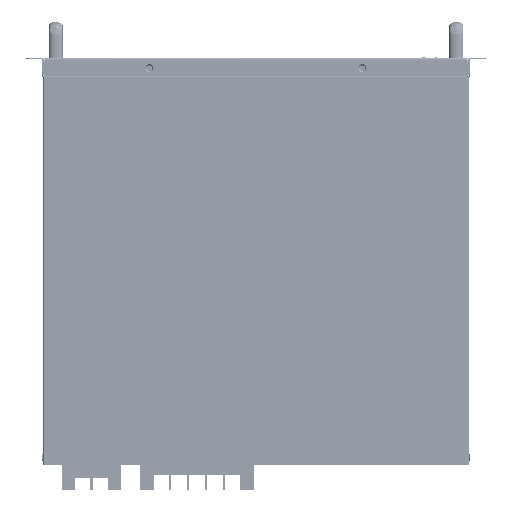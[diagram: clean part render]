
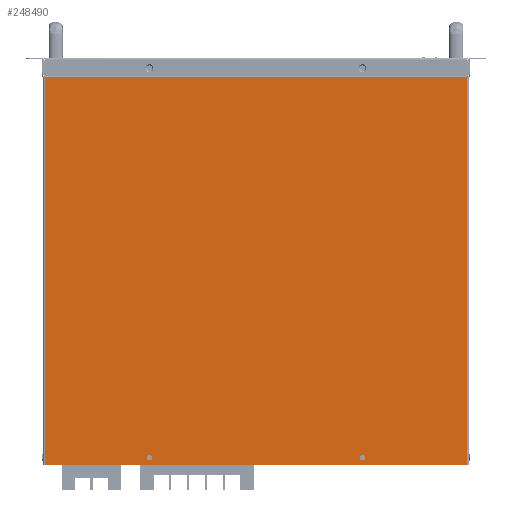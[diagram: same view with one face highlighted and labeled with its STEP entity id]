
A CAD part, front view. The second image highlights one B-rep face of the part: STEP entity #248490.
In plain terms, the highlighted planar face has unit normal (0, -1, 0).
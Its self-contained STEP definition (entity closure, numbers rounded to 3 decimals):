
#62 = FACE_BOUND ( 'NONE', #93705, .T. ) ;
#11869 = AXIS2_PLACEMENT_3D ( 'NONE', #124774, #313213, #242427 ) ;
#23404 = CARTESIAN_POINT ( 'NONE',  ( -250., -1.5, -228.5 ) ) ;
#34899 = ORIENTED_EDGE ( 'NONE', *, *, #364485, .F. ) ;
#37316 = VERTEX_POINT ( 'NONE', #70199 ) ;
#45358 = EDGE_LOOP ( 'NONE', ( #256952, #361892 ) ) ;
#46961 = VERTEX_POINT ( 'NONE', #157932 ) ;
#70199 = CARTESIAN_POINT ( 'NONE',  ( -248., -1.5, -228.5 ) ) ;
#72329 = DIRECTION ( 'NONE',  ( 0., -1., 0. ) ) ;
#73081 = DIRECTION ( 'NONE',  ( 0., 0., -1. ) ) ;
#77983 = VECTOR ( 'NONE', #127169, 1000. ) ;
#82845 = CARTESIAN_POINT ( 'NONE',  ( 125., -1.5, -216.75 ) ) ;
#86593 = CARTESIAN_POINT ( 'NONE',  ( 125., -1.5, -220. ) ) ;
#89018 = AXIS2_PLACEMENT_3D ( 'NONE', #360701, #396043, #73081 ) ;
#91933 = VECTOR ( 'NONE', #222293, 1000. ) ;
#93705 = EDGE_LOOP ( 'NONE', ( #401311, #436536 ) ) ;
#109701 = VECTOR ( 'NONE', #445396, 1000. ) ;
#124774 = CARTESIAN_POINT ( 'NONE',  ( -125., -1.5, -220. ) ) ;
#127169 = DIRECTION ( 'NONE',  ( -1., 0., 0. ) ) ;
#141474 = FACE_BOUND ( 'NONE', #45358, .T. ) ;
#143767 = FACE_OUTER_BOUND ( 'NONE', #413355, .T. ) ;
#157932 = CARTESIAN_POINT ( 'NONE',  ( -248., -1.5, 226.9 ) ) ;
#167570 = ORIENTED_EDGE ( 'NONE', *, *, #412041, .T. ) ;
#180791 = AXIS2_PLACEMENT_3D ( 'NONE', #395291, #72329, #216094 ) ;
#181032 = ORIENTED_EDGE ( 'NONE', *, *, #270271, .T. ) ;
#181295 = EDGE_CURVE ( 'NONE', #334120, #388902, #232619, .T. ) ;
#188035 = DIRECTION ( 'NONE',  ( 0., -1., 0. ) ) ;
#199349 = CARTESIAN_POINT ( 'NONE',  ( -125., -1.5, -223.25 ) ) ;
#201261 = EDGE_CURVE ( 'NONE', #421068, #202776, #286095, .T. ) ;
#202776 = VERTEX_POINT ( 'NONE', #199349 ) ;
#216094 = DIRECTION ( 'NONE',  ( 0., 0., -1. ) ) ;
#222293 = DIRECTION ( 'NONE',  ( 0., 0., 1. ) ) ;
#230337 = DIRECTION ( 'NONE',  ( 0., 0., -1. ) ) ;
#232604 = DIRECTION ( 'NONE',  ( 0., 0., -1. ) ) ;
#232619 = CIRCLE ( 'NONE', #285482, 3.25 ) ;
#242427 = DIRECTION ( 'NONE',  ( 0., 0., -1. ) ) ;
#245585 = DIRECTION ( 'NONE',  ( 0., 0., -1. ) ) ;
#246226 = EDGE_CURVE ( 'NONE', #314081, #46961, #367753, .T. ) ;
#246401 = EDGE_CURVE ( 'NONE', #202776, #421068, #388044, .T. ) ;
#247849 = CARTESIAN_POINT ( 'NONE',  ( -125., -1.5, -216.75 ) ) ;
#248490 = ADVANCED_FACE ( 'NONE', ( #141474, #62, #143767 ), #287576, .T. ) ;
#256952 = ORIENTED_EDGE ( 'NONE', *, *, #405964, .F. ) ;
#266965 = CARTESIAN_POINT ( 'NONE',  ( 248., -1.5, -228.5 ) ) ;
#270271 = EDGE_CURVE ( 'NONE', #297189, #314081, #441493, .T. ) ;
#272628 = LINE ( 'NONE', #421106, #449287 ) ;
#285482 = AXIS2_PLACEMENT_3D ( 'NONE', #86593, #188035, #230337 ) ;
#286095 = CIRCLE ( 'NONE', #180791, 3.25 ) ;
#287576 = PLANE ( 'NONE',  #89018 ) ;
#297189 = VERTEX_POINT ( 'NONE', #390540 ) ;
#301614 = CARTESIAN_POINT ( 'NONE',  ( 248., -1.5, 226.9 ) ) ;
#310967 = LINE ( 'NONE', #23404, #77983 ) ;
#313213 = DIRECTION ( 'NONE',  ( 0., -1., 0. ) ) ;
#314081 = VERTEX_POINT ( 'NONE', #460850 ) ;
#322864 = CIRCLE ( 'NONE', #451721, 3.25 ) ;
#334120 = VERTEX_POINT ( 'NONE', #334686 ) ;
#334686 = CARTESIAN_POINT ( 'NONE',  ( 125., -1.5, -223.25 ) ) ;
#347282 = ORIENTED_EDGE ( 'NONE', *, *, #246226, .T. ) ;
#360701 = CARTESIAN_POINT ( 'NONE',  ( 0., -1.5, 0. ) ) ;
#361892 = ORIENTED_EDGE ( 'NONE', *, *, #181295, .F. ) ;
#364485 = EDGE_CURVE ( 'NONE', #297189, #37316, #310967, .T. ) ;
#367753 = LINE ( 'NONE', #301614, #109701 ) ;
#388044 = CIRCLE ( 'NONE', #11869, 3.25 ) ;
#388902 = VERTEX_POINT ( 'NONE', #82845 ) ;
#390540 = CARTESIAN_POINT ( 'NONE',  ( 248., -1.5, -228.5 ) ) ;
#395291 = CARTESIAN_POINT ( 'NONE',  ( -125., -1.5, -220. ) ) ;
#396043 = DIRECTION ( 'NONE',  ( 0., -1., 0. ) ) ;
#401311 = ORIENTED_EDGE ( 'NONE', *, *, #201261, .F. ) ;
#405964 = EDGE_CURVE ( 'NONE', #388902, #334120, #322864, .T. ) ;
#412041 = EDGE_CURVE ( 'NONE', #46961, #37316, #272628, .T. ) ;
#413355 = EDGE_LOOP ( 'NONE', ( #181032, #347282, #167570, #34899 ) ) ;
#421068 = VERTEX_POINT ( 'NONE', #247849 ) ;
#421106 = CARTESIAN_POINT ( 'NONE',  ( -248., -1.5, 228.5 ) ) ;
#436536 = ORIENTED_EDGE ( 'NONE', *, *, #246401, .F. ) ;
#441493 = LINE ( 'NONE', #266965, #91933 ) ;
#445396 = DIRECTION ( 'NONE',  ( -1., 0., 0. ) ) ;
#449287 = VECTOR ( 'NONE', #232604, 1000. ) ;
#451721 = AXIS2_PLACEMENT_3D ( 'NONE', #457800, #455487, #245585 ) ;
#455487 = DIRECTION ( 'NONE',  ( 0., -1., 0. ) ) ;
#457800 = CARTESIAN_POINT ( 'NONE',  ( 125., -1.5, -220. ) ) ;
#460850 = CARTESIAN_POINT ( 'NONE',  ( 248., -1.5, 226.9 ) ) ;
